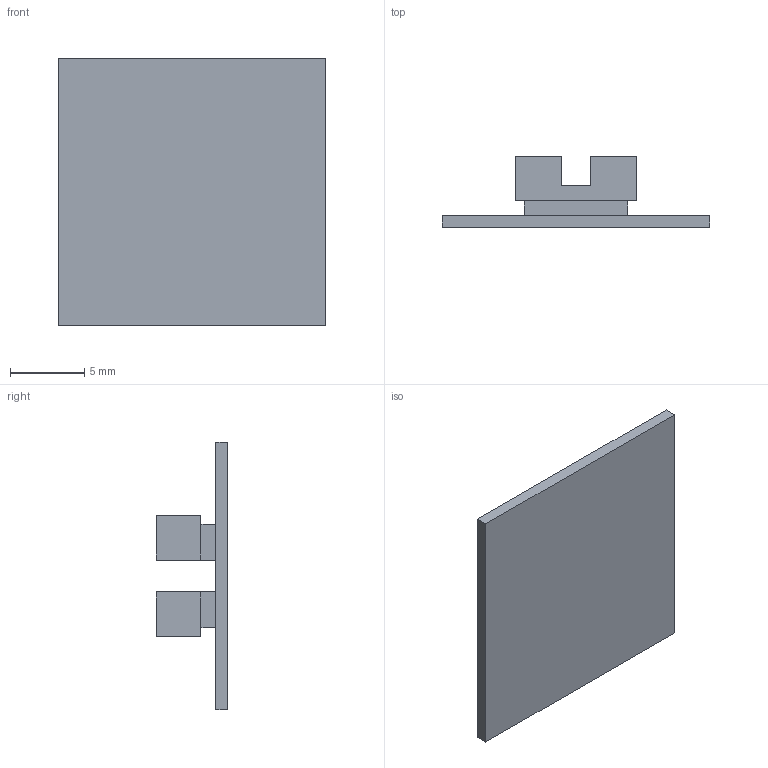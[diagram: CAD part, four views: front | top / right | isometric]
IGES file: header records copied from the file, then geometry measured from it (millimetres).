
Start section: Data from Parasolid IGES Translator 20.0.26, Copyright(c) 2006 Siemens P LM Software. All Rights Reserved.
Global section: file name: 9298851.igs; native system: By Siemens PLM Incorporated; preprocessor: XPlus GENERIC/IGES 20.0.26; author: Noname; organization: Noname; date: 20210827.192148; units: millimetre
Bounding box: 18 x 4.8 x 18 mm (x, y, z)
Surface area: 933.9 mm2 (no closed solid volume)
Topology: 0 solids, 0 shells, 40 faces, 216 edges, 216 vertices
Faces by surface type: extrusion 40
